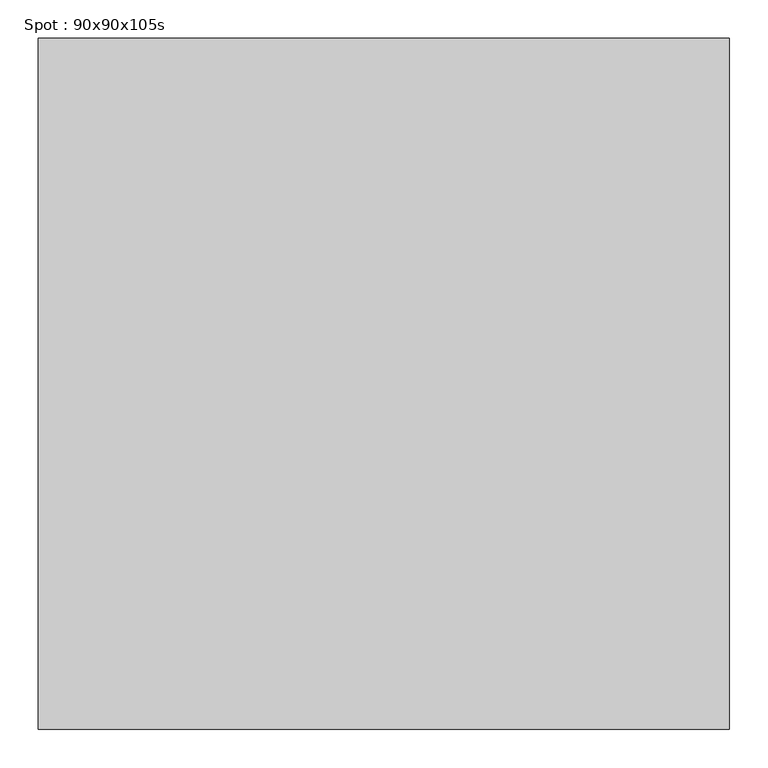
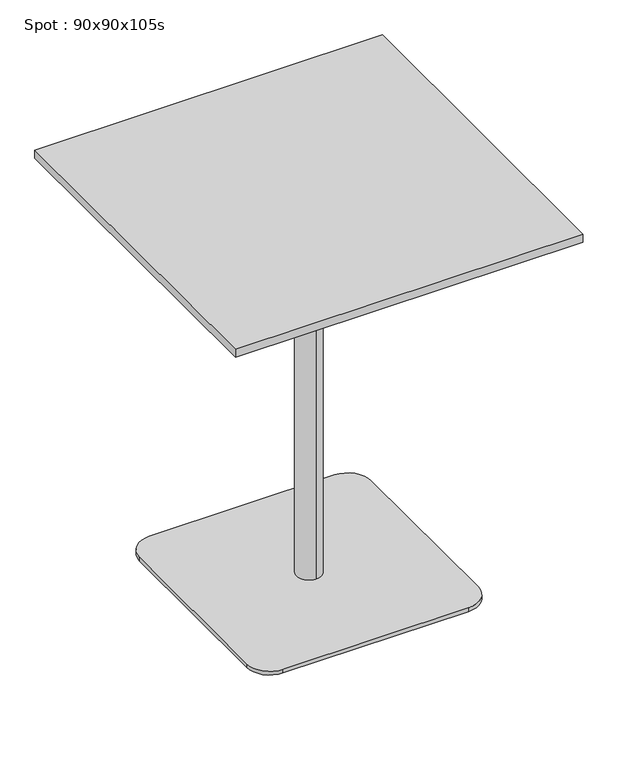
"""IFC4 building model written with IfcOpenShell, lengths in millimetres: furniture geometry, Spot : 90x90x105s."""

from ifc_helpers import new_model, si_unit, point, frame, frame_2d, origin, origin_with_axes, place, context, project, spatial, polyline, circle_curve, trimmed, segment, composite_curve, outline, extrude, source, transform, mapped, element, save
from ifc_brep_helpers import plane_surface, cylinder_surface, revolved_surface, advanced_brep


def spot_90x90x105s_59163803(model_context):
    return source(origin(), model_context, "Body", "SolidModel", [
        extrude(outline(polyline([(450.0, 450.0), (450.0, -450.0), (-450.0, -450.0), (-450.0, 450.0), (450.0, 450.0)])), frame((0.0, 0.0, 1028.0), z_axis=(0.0, 0.0, 1.0), x_axis=(1.0, 0.0, 0.0)), (0.0, 0.0, 1.0), 22.0),
        extrude(outline(composite_curve([segment(trimmed(circle_curve(frame_2d((240.0, 240.0)), 60.0), [point((240.0, 300.0))], [point((300.0, 240.0))], False, "CARTESIAN"), True, "CONTINUOUS"), segment(polyline([(300.0, 240.0), (300.0, -240.0)]), True, "CONTINUOUS"), segment(trimmed(circle_curve(frame_2d((240.0, -240.0)), 60.0), [point((300.0, -240.0))], [point((240.0, -300.0))], False, "CARTESIAN"), True, "CONTINUOUS"), segment(polyline([(240.0, -300.0), (-240.0, -300.0)]), True, "CONTINUOUS"), segment(trimmed(circle_curve(frame_2d((-240.0, -240.0)), 60.0), [point((-240.0, -300.0))], [point((-300.0, -240.0))], False, "CARTESIAN"), True, "CONTINUOUS"), segment(polyline([(-300.0, -240.0), (-300.0, 240.0)]), True, "CONTINUOUS"), segment(trimmed(circle_curve(frame_2d((-240.0, 240.0)), 60.0), [point((-300.0, 240.0))], [point((-240.0, 300.0))], False, "CARTESIAN"), True, "CONTINUOUS"), segment(polyline([(-240.0, 300.0), (240.0, 300.0)]), True, "CONTINUOUS")], self_intersect=False)), origin_with_axes(), (0.0, 0.0, 1.0), 10.0),
        advanced_brep(
        [(0.0, 32.0, 10.0), (0.0, -32.0, 10.0), (0.0, -32.0, 997.406916), (0.0, 32.0, 997.406916), (0.0, 0.0, 10.0), (0.0, 150.0, 1028.0), (0.0, -150.0, 1028.0), (0.0, 0.0, 1028.0), (0.0, 150.0, 1016.7213673), (0.0, -150.0, 1016.7213673)],
        [
            (0, 1, circle_curve(frame((0.0, 0.0, 10.0), z_axis=(0.0, 0.0, 1.0), x_axis=(0.0, -1.0, 0.0)), 32.0)),
            (1, 2),
            (2, 3, circle_curve(frame((0.0, 0.0, 997.406916), z_axis=(0.0, 0.0, -1.0), x_axis=(0.0, -1.0, 0.0)), 32.0)),
            (3, 0),
            (1, 0, circle_curve(frame((0.0, 0.0, 10.0), z_axis=(0.0, 0.0, 1.0), x_axis=(0.0, -1.0, 0.0)), 32.0)),
            (3, 2, circle_curve(frame((0.0, 0.0, 997.406916), z_axis=(0.0, 0.0, -1.0), x_axis=(0.0, -1.0, 0.0)), 32.0)),
            (4, 1),
            (0, 4),
            (5, 6, circle_curve(frame((0.0, 0.0, 1028.0), z_axis=(0.0, 0.0, 1.0), x_axis=(0.0, -1.0, 0.0)), 150.0)),
            (6, 7),
            (7, 5),
            (6, 5, circle_curve(frame((0.0, 0.0, 1028.0), z_axis=(0.0, 0.0, 1.0), x_axis=(0.0, -1.0, 0.0)), 150.0)),
            (8, 9, circle_curve(frame((0.0, 0.0, 1016.7213673), z_axis=(0.0, 0.0, 1.0), x_axis=(0.0, -1.0, 0.0)), 150.0)),
            (9, 6),
            (5, 8),
            (9, 8, circle_curve(frame((0.0, 0.0, 1016.7213673), z_axis=(0.0, 0.0, 1.0), x_axis=(0.0, -1.0, 0.0)), 150.0)),
            (2, 9),
            (8, 3),
        ],
        [
            cylinder_surface(frame((0.0, 0.0, 1390.0), z_axis=(0.0, 0.0, -1.0), x_axis=(0.0, -1.0, 0.0)), 32.0),
            plane_surface(frame((0.0, 0.0, 10.0), z_axis=(0.0, 0.0, -1.0), x_axis=(0.0, -1.0, 0.0))),
            plane_surface(frame((0.0, 0.0, 1028.0), z_axis=(0.0, 0.0, 1.0), x_axis=(0.0, -1.0, 0.0))),
            cylinder_surface(frame((0.0, 0.0, 1390.0), z_axis=(0.0, 0.0, -1.0), x_axis=(0.0, -1.0, 0.0)), 150.0),
            revolved_surface(polyline([(0.0, -150.0, 1016.7213673), (0.0, -32.0, 997.406916)]), (0.0, 0.0, 1390.0), (0.0, 0.0, -1.0)),
        ],
        [
            (0, [[1, 2, 3, 4]]),
            (0, [[5, -4, 6, -2]]),
            (1, [[7, -1, 8]]),
            (1, [[-8, -5, -7]]),
            (2, [[9, 10, 11]]),
            (2, [[12, -11, -10]]),
            (3, [[13, 14, -9, 15]]),
            (3, [[16, -15, -12, -14]]),
            (4, [[-3, 17, -13, 18]]),
            (4, [[-6, -18, -16, -17]]),
        ],
    ),
        extrude(outline(polyline([(0.0, 0.0), (-20.0, 0.0), (-20.0, 20.0), (0.0, 20.0), (0.0, 0.0)])), origin_with_axes(), (0.0, 0.0, 1.0), 10.0),
    ])


if __name__ == "__main__":
    model = new_model("IFC4")
    model_context = context("Model", 3, world=origin())
    ifc_project = project(units=[si_unit("LENGTHUNIT", "METRE", prefix="MILLI")], contexts=[model_context])
    site = spatial("IfcSite", under=ifc_project)
    building = spatial("IfcBuilding", under=site)
    placement = place(None, origin())
    spot_90x90x105s_shape = spot_90x90x105s_59163803(model_context)
    element("IfcFurniture", 1, ObjectType="Spot : 90x90x105s", at=placement, inside=building, context=model_context, shape_type="MappedRepresentation", body=[
        mapped(spot_90x90x105s_shape, transform((0.0, 0.0, 0.0), x_axis=(1.0, 0.0, 0.0), y_axis=(0.0, 1.0, 0.0), z_axis=(0.0, 0.0, 1.0))),
    ])
    save(model, "model.ifc")
